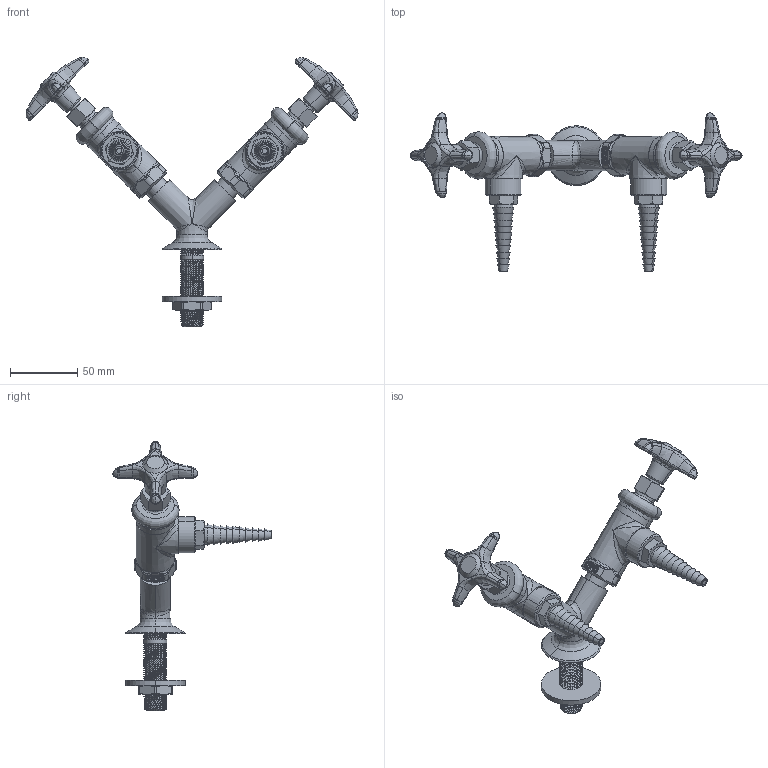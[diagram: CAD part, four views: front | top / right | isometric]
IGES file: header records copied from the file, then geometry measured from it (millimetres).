
Start section:  PTC IGES file: LGF3-A12J-65.igs
Global section: file name: LGF3-A12J-65.igs; native system: Creo Parametric by PTC Inc.; preprocessor: 2014500; author: usch_engrender; organization: Unknown; date: 20160113.161252; units: inch
Bounding box: 247.39 x 117.97 x 200.62 mm (x, y, z)
Volume: 166080.7 mm3; surface area: 73091.6 mm2
Topology: 1 solids, 11 shells, 1307 faces, 3005 edges, 1772 vertices
Faces by surface type: bspline 711, revolution 596
